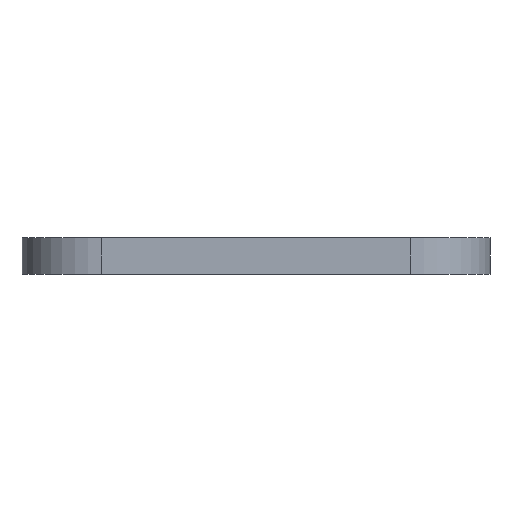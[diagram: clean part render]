
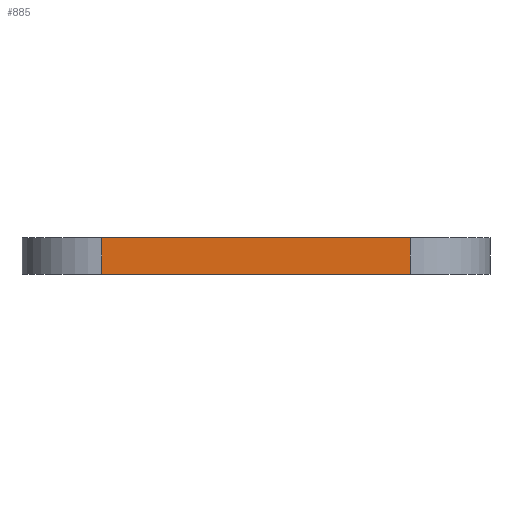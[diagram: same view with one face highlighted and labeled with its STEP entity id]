
A CAD part, left-side view. The second image highlights one B-rep face of the part: STEP entity #885.
In plain terms, the highlighted planar face has unit normal (-1, 0, 0).
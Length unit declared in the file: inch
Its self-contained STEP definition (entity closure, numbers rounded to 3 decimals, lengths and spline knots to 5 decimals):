
#8 = DIRECTION ( 'NONE',  ( 1., 0., 0. ) ) ;
#68 = ORIENTED_EDGE ( 'NONE', *, *, #942, .F. ) ;
#147 = CARTESIAN_POINT ( 'NONE',  ( -1.56713, 0.5315, 0. ) ) ;
#158 = ORIENTED_EDGE ( 'NONE', *, *, #410, .T. ) ;
#207 = DIRECTION ( 'NONE',  ( 0., 0., 1. ) ) ;
#236 = VERTEX_POINT ( 'NONE', #1430 ) ;
#275 = DIRECTION ( 'NONE',  ( 0., 1., 0. ) ) ;
#314 = AXIS2_PLACEMENT_3D ( 'NONE', #1421, #8, #434 ) ;
#316 = VERTEX_POINT ( 'NONE', #627 ) ;
#363 = LINE ( 'NONE', #848, #485 ) ;
#394 = VECTOR ( 'NONE', #207, 39.37008 ) ;
#410 = EDGE_CURVE ( 'NONE', #594, #1023, #957, .T. ) ;
#411 = ORIENTED_EDGE ( 'NONE', *, *, #954, .T. ) ;
#434 = DIRECTION ( 'NONE',  ( 0., 1., 0. ) ) ;
#440 = EDGE_CURVE ( 'NONE', #236, #594, #1188, .T. ) ;
#485 = VECTOR ( 'NONE', #608, 39.37008 ) ;
#497 = DIRECTION ( 'NONE',  ( 0., 1., 0. ) ) ;
#563 = PLANE ( 'NONE',  #314 ) ;
#594 = VERTEX_POINT ( 'NONE', #611 ) ;
#608 = DIRECTION ( 'NONE',  ( 0., 0., -1. ) ) ;
#611 = CARTESIAN_POINT ( 'NONE',  ( -1.56713, -0.5315, 0. ) ) ;
#627 = CARTESIAN_POINT ( 'NONE',  ( -1.56713, 0.5315, -0.1252 ) ) ;
#717 = EDGE_LOOP ( 'NONE', ( #68, #738, #158, #411 ) ) ;
#738 = ORIENTED_EDGE ( 'NONE', *, *, #440, .T. ) ;
#848 = CARTESIAN_POINT ( 'NONE',  ( -1.56713, 0.5315, -0.1252 ) ) ;
#885 = ADVANCED_FACE ( 'NONE', ( #1099 ), #563, .F. ) ;
#889 = CARTESIAN_POINT ( 'NONE',  ( -1.56713, -0.5315, -0.1252 ) ) ;
#942 = EDGE_CURVE ( 'NONE', #236, #316, #1383, .T. ) ;
#954 = EDGE_CURVE ( 'NONE', #1023, #316, #363, .T. ) ;
#957 = LINE ( 'NONE', #1071, #1194 ) ;
#1023 = VERTEX_POINT ( 'NONE', #147 ) ;
#1071 = CARTESIAN_POINT ( 'NONE',  ( -1.56713, -0.80709, 0. ) ) ;
#1099 = FACE_OUTER_BOUND ( 'NONE', #717, .T. ) ;
#1188 = LINE ( 'NONE', #889, #394 ) ;
#1194 = VECTOR ( 'NONE', #275, 39.37008 ) ;
#1220 = VECTOR ( 'NONE', #497, 39.37008 ) ;
#1361 = CARTESIAN_POINT ( 'NONE',  ( -1.56713, -0.80709, -0.1252 ) ) ;
#1383 = LINE ( 'NONE', #1361, #1220 ) ;
#1421 = CARTESIAN_POINT ( 'NONE',  ( -1.56713, -0.80709, -0.1252 ) ) ;
#1430 = CARTESIAN_POINT ( 'NONE',  ( -1.56713, -0.5315, -0.1252 ) ) ;
